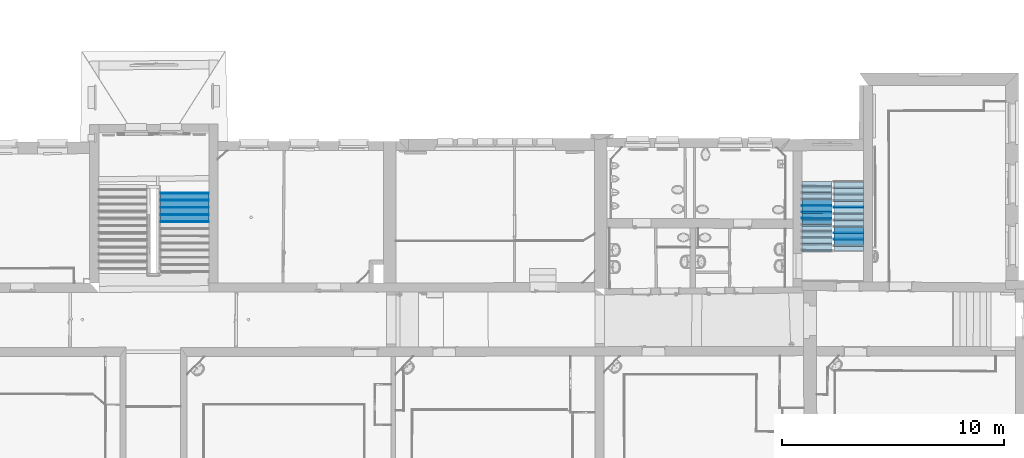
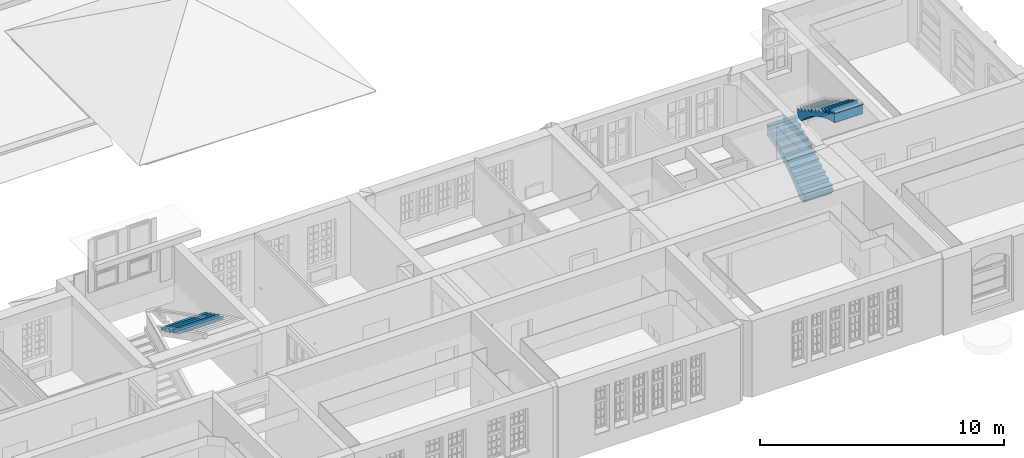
# One storey, part 114 of 158: 24 building element parts, 3 elements without a shape of their own.
"""IFC2X3 building model written with IfcOpenShell, lengths in metres."""

from ifc_helpers import new_model, entity, si_unit, converted_unit, derived_unit, money_unit, direction, frame, origin_with_axes, place, context, subcontext, project, spatial, faceted_brep, material, element, aggregate, save


model = new_model("IFC2X3")

# Units and contexts
model_context = context("Model", 3, precision=1e-05, world=origin_with_axes(), true_north=direction((0.0, 1.0)))
body_context = subcontext(model_context, "Body", "Model", "MODEL_VIEW")
ifc_project = project(units=[si_unit("LENGTHUNIT", "METRE"), si_unit("AREAUNIT", "SQUARE_METRE"), si_unit("VOLUMEUNIT", "CUBIC_METRE"), converted_unit("PLANEANGLEUNIT", "DEGREE", entity("IfcPlaneAngleMeasure", 0.0174532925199), si_unit("PLANEANGLEUNIT", "RADIAN"), dimensions=[0, 0, 0, 0, 0, 0, 0]), money_unit("EUR"), converted_unit("TIMEUNIT", "Year", entity("IfcTimeMeasure", 31556926.0), si_unit("TIMEUNIT", "SECOND"), dimensions=[0, 0, 1, 0, 0, 0, 0]), si_unit("MASSUNIT", "GRAM", prefix="KILO"), si_unit("THERMODYNAMICTEMPERATUREUNIT", "DEGREE_CELSIUS"), si_unit("LUMINOUSINTENSITYUNIT", "LUMEN"), si_unit("ENERGYUNIT", "JOULE", prefix="MEGA"), derived_unit("THERMALCONDUCTANCEUNIT", [(si_unit("POWERUNIT", "WATT"), 1), (si_unit("LENGTHUNIT", "METRE"), -1), (si_unit("THERMODYNAMICTEMPERATUREUNIT", "KELVIN"), -1)]), derived_unit("SPECIFICHEATCAPACITYUNIT", [(si_unit("ENERGYUNIT", "JOULE"), 1), (si_unit("MASSUNIT", "GRAM", prefix="KILO"), -1), (si_unit("THERMODYNAMICTEMPERATUREUNIT", "KELVIN"), -1)]), derived_unit("MASSDENSITYUNIT", [(si_unit("MASSUNIT", "GRAM", prefix="KILO"), 1), (si_unit("VOLUMEUNIT", "CUBIC_METRE"), -1)])], contexts=[model_context])

# Site, building, storey
site_placement = place(None, origin_with_axes())
site = spatial("IfcSite", under=ifc_project, at=site_placement, Name="Gelände", CompositionType="ELEMENT")
building_placement = place(site_placement, origin_with_axes())
building = spatial("IfcBuilding", under=site, at=building_placement, Name="Gebäude", CompositionType="ELEMENT")
storey_placement = place(building_placement, origin_with_axes())
storey = spatial("IfcBuildingStorey", under=building, at=storey_placement, Name="ERDGESCHOSS", CompositionType="ELEMENT", Elevation=0.0)

# Stair, building element parts
stair_1_placement = place(storey_placement, frame((21.8959454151, 21.0830287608, -0.0587690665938), z_axis=(0.0, 0.0, 1.0), x_axis=(0.999997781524, -0.00210640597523, 0.0)))
stair_1 = element("IfcStair", 1, at=stair_1_placement, inside=storey, Name="Treppe-003", ShapeType="NOTDEFINED")
ifc_material = material(Name="05_ALLGEMEIN - TRAGENDE BAUTEILE")
building_element_part_1_placement = place(stair_1_placement, origin_with_axes())
building_element_part_1 = element("IfcBuildingElementPart", 2, at=building_element_part_1_placement, material=ifc_material, Name="05_ALLGEMEIN - TRAGENDE BAUTEILE", context=body_context, shape_type="Brep", body=[
    faceted_brep([(1.3274507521, 3.17713850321, 1.20509644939), (1.3274507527, 3.17713850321, 1.58806106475), (1.32744884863, 3.17950924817, 1.58806106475), (1.32744884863, 3.17950924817, 1.74637164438), (1.32760850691, 2.98055995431, 1.74637164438), (1.32760850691, 2.98055995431, 1.58397422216), (1.32784039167, 2.69161068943, 1.58397422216), (1.32784039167, 2.69161068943, 1.42157679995), (1.32807227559, 2.40266142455, 1.42157679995), (1.32807227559, 2.40266142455, 1.25917937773), (1.32830415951, 2.11371215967, 1.25917937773), (1.32830415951, 2.11371215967, 1.09678195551), (1.32853604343, 1.82476289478, 1.09678195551), (1.32853604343, 1.82476289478, 0.934384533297), (1.32876792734, 1.5358136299, 0.934384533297), (1.32876792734, 1.5358136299, 0.771987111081), (1.32899981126, 1.24686436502, 0.771987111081), (1.32899981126, 1.24686436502, 0.609589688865), (1.32923169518, 0.957915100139, 0.609589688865), (1.32923169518, 0.957915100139, 0.447192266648), (1.3294635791, 0.668965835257, 0.447192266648), (1.3294635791, 0.668965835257, 0.284794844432), (1.32969546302, 0.380016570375, 0.284794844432), (1.32969546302, 0.380016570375, 0.122397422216), (1.32992734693, 0.0910673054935, 0.122397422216), (1.32992734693, 0.0910673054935, -0.04), (1.32999957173, 0.00106733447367, -0.04), (1.32999957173, 0.00106733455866, -0.16), (1.32987919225, 0.151067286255, -0.16), (1.32987919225, 0.151067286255, -0.34), (1.32963501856, 0.455339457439, -0.34), (1.32961310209, 0.482649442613, -0.324651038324), (1.32959910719, 0.500088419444, -0.314849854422), (1.32959910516, 0.50008841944, -0.310515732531), (1.32937930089, 0.773985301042, -0.0337832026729), (1.32914279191, 1.06869782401, 0.220667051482), (1.32889102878, 1.38241846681, 0.451274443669), (1.3286255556, 1.7132231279, 0.656624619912), (1.32834800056, 2.05908292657, 0.835458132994), (1.32806006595, 2.41787664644, 0.98667816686), (1.32776351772, 2.78740374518, 1.10935726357), (1.32746017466, 3.16539785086, 1.20274301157), (-0.00254918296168, 3.17652275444, 1.20549523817), (-0.00254918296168, 3.17652275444, 1.58806106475), (-0.00255072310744, 3.1784419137, 1.58806106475), (-0.00255072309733, 3.1784419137, 1.74637164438), (-0.00239106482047, 2.97949261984, 1.74637164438), (-0.00239106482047, 2.97949261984, 1.58397422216), (-0.00215918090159, 2.69054335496, 1.58397422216), (-0.00215918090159, 2.69054335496, 1.42157679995), (-0.00192729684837, 2.40159409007, 1.42157679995), (-0.00192729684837, 2.40159409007, 1.25917937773), (-0.00169541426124, 2.11264482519, 1.25917937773), (-0.00169541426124, 2.11264482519, 1.09678195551), (-0.00146353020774, 1.82369556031, 1.09678195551), (-0.00146353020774, 1.82369556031, 0.934384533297), (-0.00123164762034, 1.53474629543, 0.934384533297), (-0.00123164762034, 1.53474629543, 0.771987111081), (-0.000999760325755, 1.24579703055, 0.771987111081), (-0.000999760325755, 1.24579703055, 0.609589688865), (-0.000767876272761, 0.956847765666, 0.609589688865), (-0.000767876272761, 0.956847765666, 0.447192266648), (-0.000535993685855, 0.667898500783, 0.447192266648), (-0.000535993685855, 0.667898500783, 0.284794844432), (-0.000304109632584, 0.378949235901, 0.284794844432), (-0.000304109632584, 0.378949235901, 0.122397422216), (-7.22270454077e-05, 0.0899999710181, 0.122397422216), (-7.22270454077e-05, 0.0899999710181, -0.04), (0.0, 0.0, -0.04), (-9.47533607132e-09, 0.0, -0.16), (-0.000120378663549, 0.149999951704, -0.16), (-0.000120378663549, 0.149999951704, -0.34), (-0.000364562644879, 0.454272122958, -0.34), (-0.000386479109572, 0.481582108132, -0.324651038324), (-0.000399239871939, 0.497483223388, -0.315714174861), (-0.000399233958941, 0.4974832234, -0.310515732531), (-0.000619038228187, 0.771380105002, -0.0337832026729), (-0.000855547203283, 1.06609262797, 0.220667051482), (-0.00110731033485, 1.37981327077, 0.451274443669), (-0.0013727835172, 1.71061793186, 0.656624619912), (-0.00165033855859, 2.05647773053, 0.835458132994), (-0.00193827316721, 2.4152714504, 0.98667816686), (-0.0022348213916, 2.78479854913, 1.10935726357), (-0.00253816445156, 3.16279265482, 1.20274301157)], [[[0, 1, 2, 3, 4, 5, 6, 7, 8, 9, 10, 11, 12, 13, 14, 15, 16, 17, 18, 19, 20, 21, 22, 23, 24, 25, 26, 27, 28, 29, 30, 31, 32, 33, 34, 35, 36, 37, 38, 39, 40, 41]], [[1, 0, 42, 43]], [[44, 2, 1, 43]], [[2, 44, 45, 3]], [[45, 46, 4, 3]], [[4, 46, 47, 5]], [[5, 47, 48, 6]], [[6, 48, 49, 7]], [[7, 49, 50, 8]], [[8, 50, 51, 9]], [[9, 51, 52, 10]], [[10, 52, 53, 11]], [[11, 53, 54, 12]], [[12, 54, 55, 13]], [[13, 55, 56, 14]], [[14, 56, 57, 15]], [[15, 57, 58, 16]], [[16, 58, 59, 17]], [[17, 59, 60, 18]], [[18, 60, 61, 19]], [[19, 61, 62, 20]], [[20, 62, 63, 21]], [[21, 63, 64, 22]], [[22, 64, 65, 23]], [[23, 65, 66, 24]], [[24, 66, 67, 25]], [[26, 25, 67, 68]], [[68, 69, 27, 26]], [[70, 28, 27, 69]], [[71, 29, 28, 70]], [[30, 29, 71, 72]], [[72, 73, 31, 30]], [[73, 74, 32, 31]], [[75, 33, 32, 74]], [[76, 34, 33, 75]], [[77, 35, 34, 76]], [[78, 36, 35, 77]], [[79, 37, 36, 78]], [[80, 38, 37, 79]], [[81, 39, 38, 80]], [[82, 40, 39, 81]], [[83, 41, 40, 82]], [[42, 0, 41, 83]], [[43, 42, 83, 82, 81, 80, 79, 78, 77, 76, 75, 74, 73, 72, 71, 70, 69, 68, 67, 66, 65, 64, 63, 62, 61, 60, 59, 58, 57, 56, 55, 54, 53, 52, 51, 50, 49, 48, 47, 46, 45, 44]]]),
])
building_element_part_2_placement = place(stair_1_placement, origin_with_axes())
building_element_part_2 = element("IfcBuildingElementPart", 3, at=building_element_part_2_placement, material=ifc_material, Name="05_ALLGEMEIN - TRAGENDE BAUTEILE", context=body_context, shape_type="Brep", body=[
    faceted_brep([(-0.00119954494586, 1.49474630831, 0.934384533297), (1.32880002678, 1.49581364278, 0.934384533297), (1.3287679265, 1.5358136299, 0.934384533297), (-0.00123164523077, 1.53474629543, 0.934384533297), (-0.00119954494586, 1.49474630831, 0.811987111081), (1.32880002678, 1.49581364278, 0.811987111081), (1.3287679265, 1.5358136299, 0.811987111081), (-0.00123164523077, 1.53474629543, 0.811987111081)], [[[0, 1, 2, 3]], [[4, 5, 1, 0]], [[2, 1, 5, 6]], [[3, 2, 6, 7]], [[4, 0, 3, 7]], [[7, 6, 5, 4]]]),
])
building_element_part_3_placement = place(stair_1_placement, origin_with_axes())
building_element_part_3 = element("IfcBuildingElementPart", 4, at=building_element_part_3_placement, material=ifc_material, Name="05_ALLGEMEIN - TRAGENDE BAUTEILE", context=body_context, shape_type="Brep", body=[
    faceted_brep([(-0.00143142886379, 1.78369557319, 1.09678195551), (1.32856814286, 1.78476290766, 1.09678195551), (1.32853604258, 1.82476289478, 1.09678195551), (-0.00146352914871, 1.82369556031, 1.09678195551), (-0.00143142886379, 1.78369557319, 0.974384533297), (1.32856814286, 1.78476290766, 0.974384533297), (1.32853604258, 1.82476289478, 0.974384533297), (-0.00146352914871, 1.82369556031, 0.974384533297)], [[[0, 1, 2, 3]], [[4, 5, 1, 0]], [[2, 1, 5, 6]], [[3, 2, 6, 7]], [[4, 0, 3, 7]], [[7, 6, 5, 4]]]),
])
building_element_part_4_placement = place(stair_1_placement, origin_with_axes())
building_element_part_4 = element("IfcBuildingElementPart", 5, at=building_element_part_4_placement, material=ifc_material, Name="05_ALLGEMEIN - TRAGENDE BAUTEILE", context=body_context, shape_type="Brep", body=[
    faceted_brep([(-0.00166331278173, 2.07264483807, 1.25917937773), (1.32833625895, 2.07371217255, 1.25917937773), (1.32830415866, 2.11371215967, 1.25917937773), (-0.00169541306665, 2.11264482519, 1.25917937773), (-0.00166331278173, 2.07264483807, 1.13678195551), (1.32833625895, 2.07371217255, 1.13678195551), (1.32830415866, 2.11371215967, 1.13678195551), (-0.00169541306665, 2.11264482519, 1.13678195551)], [[[0, 1, 2, 3]], [[4, 5, 1, 0]], [[2, 1, 5, 6]], [[3, 2, 6, 7]], [[4, 0, 3, 7]], [[7, 6, 5, 4]]]),
])
building_element_part_5_placement = place(stair_1_placement, origin_with_axes())
building_element_part_5 = element("IfcBuildingElementPart", 6, at=building_element_part_5_placement, material=ifc_material, Name="05_ALLGEMEIN - TRAGENDE BAUTEILE", context=body_context, shape_type="Brep", body=[
    faceted_brep([(-0.000927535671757, 1.15579705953, 0.811987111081), (-0.000927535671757, 1.15579705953, 0.771987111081), (1.32907203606, 1.156864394, 0.771987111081), (1.32907203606, 1.156864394, 0.811987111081), (-0.00123164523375, 1.53474629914, 0.811987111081), (-0.00123164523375, 1.53474629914, 0.771987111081), (1.32876792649, 1.5358136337, 0.771987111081), (1.32876792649, 1.5358136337, 0.811987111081)], [[[0, 1, 2, 3]], [[4, 5, 1, 0]], [[2, 1, 5, 6]], [[3, 2, 6, 7]], [[4, 0, 3, 7]], [[7, 6, 5, 4]]]),
])
building_element_part_6_placement = place(stair_1_placement, origin_with_axes())
building_element_part_6 = element("IfcBuildingElementPart", 7, at=building_element_part_6_placement, material=ifc_material, Name="05_ALLGEMEIN - TRAGENDE BAUTEILE", context=body_context, shape_type="Brep", body=[
    faceted_brep([(-0.0011594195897, 1.44474632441, 0.974384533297), (-0.0011594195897, 1.44474632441, 0.934384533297), (1.32884015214, 1.44581365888, 0.934384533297), (1.32884015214, 1.44581365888, 0.974384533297), (-0.00146352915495, 1.82369556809, 0.974384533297), (-0.00146352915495, 1.82369556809, 0.934384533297), (1.32853604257, 1.82476290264, 0.934384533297), (1.32853604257, 1.82476290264, 0.974384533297)], [[[0, 1, 2, 3]], [[4, 5, 1, 0]], [[2, 1, 5, 6]], [[3, 2, 6, 7]], [[4, 0, 3, 7]], [[7, 6, 5, 4]]]),
])
building_element_part_7_placement = place(stair_1_placement, origin_with_axes())
building_element_part_7 = element("IfcBuildingElementPart", 8, at=building_element_part_7_placement, material=ifc_material, Name="05_ALLGEMEIN - TRAGENDE BAUTEILE", context=body_context, shape_type="Brep", body=[
    faceted_brep([(-0.00139130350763, 1.73369558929, 1.13678195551), (-0.00139130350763, 1.73369558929, 1.09678195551), (1.32860826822, 1.73476292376, 1.09678195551), (1.32860826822, 1.73476292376, 1.13678195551), (-0.00169541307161, 2.11264483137, 1.13678195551), (-0.00169541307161, 2.11264483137, 1.09678195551), (1.32830415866, 2.11371216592, 1.09678195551), (1.32830415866, 2.11371216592, 1.13678195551)], [[[0, 1, 2, 3]], [[4, 5, 1, 0]], [[2, 1, 5, 6]], [[3, 2, 6, 7]], [[4, 0, 3, 7]], [[7, 6, 5, 4]]]),
])
building_element_part_8_placement = place(stair_1_placement, origin_with_axes())
building_element_part_8 = element("IfcBuildingElementPart", 9, at=building_element_part_8_placement, material=ifc_material, Name="05_ALLGEMEIN - TRAGENDE BAUTEILE", context=body_context, shape_type="Brep", body=[
    faceted_brep([(-0.00162318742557, 2.02264485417, 1.29917937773), (-0.00162318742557, 2.02264485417, 1.25917937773), (1.3283763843, 2.02371218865, 1.25917937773), (1.3283763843, 2.02371218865, 1.29917937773), (-0.00192729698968, 2.40159409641, 1.29917937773), (-0.00192729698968, 2.40159409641, 1.25917937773), (1.32807227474, 2.40266143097, 1.25917937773), (1.32807227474, 2.40266143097, 1.29917937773)], [[[0, 1, 2, 3]], [[4, 5, 1, 0]], [[2, 1, 5, 6]], [[3, 2, 6, 7]], [[4, 0, 3, 7]], [[7, 6, 5, 4]]]),
])
aggregate(stair_1, [building_element_part_1, building_element_part_2, building_element_part_3, building_element_part_4, building_element_part_5, building_element_part_6, building_element_part_7, building_element_part_8])

stair_2_placement = place(storey_placement, frame((24.6725396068, 24.3329310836, 1.86929199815), z_axis=(0.0, 0.0, 1.0), x_axis=(-0.999999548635, 0.000950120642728, 0.0)))
stair_2 = element("IfcStair", 10, at=stair_2_placement, inside=storey, Name="Treppe-003", ShapeType="NOTDEFINED")
building_element_part_9_placement = place(stair_2_placement, origin_with_axes())
building_element_part_9 = element("IfcBuildingElementPart", 11, at=building_element_part_9_placement, material=ifc_material, Name="05_ALLGEMEIN - TRAGENDE BAUTEILE", context=body_context, shape_type="Brep", body=[
    faceted_brep([(0.0521772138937, 3.19442861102, 1.75582567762), (-0.00256319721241, 3.1939839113, 1.75582567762), (-0.00240277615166, 2.99408604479, 1.75582567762), (1.32759679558, 2.99515337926, 1.75582567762), (1.32749522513, 3.12171974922, 1.75582567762), (1.32727854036, 3.1217198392, 1.75582567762), (1.32667956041, 3.19545140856, 1.75582567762), (-0.00256319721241, 3.1939839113, 1.73070800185), (0.0521772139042, 3.19442861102, 1.73070800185), (-0.0025055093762, 3.12210134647, 1.73070800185), (-0.0025055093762, 3.12210134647, 1.23070800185), (-0.00250896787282, 3.12641095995, 1.23070800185), (-0.00250896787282, 3.12641095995, 1.22823933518), (-0.00240338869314, 2.99484932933, 1.20246288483), (-0.00229857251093, 2.86423846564, 1.17223557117), (-0.00219464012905, 2.73472890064, 1.13759223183), (-0.00209171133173, 2.6064698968, 1.09857279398), (-0.00198990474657, 2.47960927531, 1.05522222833), (-0.00188933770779, 2.3542932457, 1.00759049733), (-0.00179012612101, 2.23066623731, 0.955732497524), (-0.00169238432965, 2.10887073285, 0.899707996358), (-0.00150192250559, 1.87153730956, 0.787585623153), (-0.00131632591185, 1.6402664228, 0.66343910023), (-0.00113608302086, 1.41566675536, 0.527595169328), (-0.000961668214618, 1.19832943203, 0.380411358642), (-0.000793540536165, 0.988826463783, 0.222275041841), (-0.000632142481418, 0.787709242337, 0.0536024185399), (-0.000477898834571, 0.595507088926, -0.125162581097), (-0.000331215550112, 0.412725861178, -0.313549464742), (-0.000331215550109, 0.412725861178, -0.317502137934), (-0.000310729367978, 0.387198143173, -0.331853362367), (-0.000299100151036, 0.372707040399, -0.34), (-0.000120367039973, 0.149999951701, -0.34), (-0.000120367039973, 0.149999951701, -0.16), (-0.000120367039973, 0.149999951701, 0.0207080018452), (-7.22972278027e-05, 0.090099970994, 0.0207080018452), (-7.23053086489e-05, 0.0900999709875, 0.123256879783), (-0.000305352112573, 0.380498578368, 0.123256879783), (-0.000305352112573, 0.380498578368, 0.286513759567), (-0.000538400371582, 0.670897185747, 0.286513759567), (-0.000538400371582, 0.670897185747, 0.44977063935), (-0.000771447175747, 0.961295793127, 0.44977063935), (-0.000771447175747, 0.961295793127, 0.613027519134), (-0.00100449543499, 1.25169440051, 0.613027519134), (-0.00100449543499, 1.25169440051, 0.776284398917), (-0.00123754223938, 1.54209300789, 0.776284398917), (-0.00123754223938, 1.54209300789, 0.9395412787), (-0.00147058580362, 1.83249161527, 0.9395412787), (-0.00147058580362, 1.83249161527, 1.10279815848), (-0.00170363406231, 2.12289022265, 1.10279815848), (-0.00170363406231, 2.12289022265, 1.26605503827), (-0.00193668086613, 2.41328883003, 1.26605503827), (-0.00193668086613, 2.41328883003, 1.42931191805), (-0.00216972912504, 2.70368743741, 1.42931191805), (-0.00216972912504, 2.70368743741, 1.59256879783), (-0.00240277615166, 2.99408604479, 1.59256879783), (1.32759679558, 2.99515337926, 1.59256879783), (1.32749522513, 3.12171974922, 1.73070800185), (1.32782984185, 2.70475477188, 1.59256879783), (1.32782984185, 2.70475477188, 1.42931191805), (1.32806288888, 2.4143561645, 1.42931191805), (1.32806288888, 2.4143561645, 1.26605503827), (1.32829593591, 2.12395755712, 1.26605503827), (1.32829593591, 2.12395755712, 1.10279815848), (1.32852898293, 1.83355894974, 1.10279815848), (1.32852898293, 1.83355894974, 0.9395412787), (1.32876202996, 1.54316034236, 0.9395412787), (1.32876202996, 1.54316034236, 0.776284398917), (1.32899507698, 1.25276173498, 0.776284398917), (1.32899507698, 1.25276173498, 0.613027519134), (1.32922812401, 0.9623631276, 0.613027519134), (1.32922812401, 0.9623631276, 0.44977063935), (1.32946117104, 0.67196452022, 0.44977063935), (1.32946117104, 0.67196452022, 0.286513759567), (1.32969421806, 0.38156591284, 0.286513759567), (1.32969421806, 0.38156591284, 0.123256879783), (1.32992726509, 0.09116730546, 0.123256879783), (1.32992726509, 0.09116730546, -0.04), (1.32994055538, 0.07460652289, -0.04), (1.32994055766, 0.0746065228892, -0.16), (1.32987921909, 0.151067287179, -0.16), (1.32987919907, 0.151067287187, -0.34), (1.32970047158, 0.373774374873, -0.34), (1.32968884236, 0.388265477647, -0.331853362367), (1.32966835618, 0.413793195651, -0.317502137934), (1.32966835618, 0.413793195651, -0.313549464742), (1.32952167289, 0.5965744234, -0.125162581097), (1.32936742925, 0.788776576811, 0.0536024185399), (1.32920603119, 0.989893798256, 0.222275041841), (1.32903790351, 1.1993967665, 0.380411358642), (1.32886348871, 1.41673408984, 0.527595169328), (1.32868324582, 1.64133375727, 0.66343910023), (1.32849764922, 1.87260464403, 0.787585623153), (1.3283071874, 2.10993806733, 0.899707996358), (1.32820944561, 2.23173357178, 0.955732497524), (1.32811023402, 2.35536058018, 1.00759049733), (1.32800966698, 2.48067660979, 1.05522222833), (1.3279078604, 2.60753723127, 1.09857279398), (1.3278049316, 2.73579623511, 1.13759223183), (1.32770099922, 2.86530580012, 1.17223557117), (1.32759618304, 2.9959166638, 1.20246288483), (1.32749060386, 3.12747829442, 1.22823933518), (1.32749060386, 3.12747829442, 1.23070800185), (1.32749522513, 3.12171974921, 1.23070800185), (1.32727854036, 3.1217198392, 1.73070800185), (1.32727854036, 3.1217198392, 1.23070800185), (1.32667956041, 3.19545140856, 1.73070800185), (1.32987921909, 0.151067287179, 0.0207080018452), (1.32985802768, 0.0911672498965, 0.0207080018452), (1.32985802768, 0.0911672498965, -0.04), (1.32985216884, 0.0746065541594, -0.04), (1.32985216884, 0.0746065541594, -0.16)], [[[0, 1, 2, 3, 4, 5, 6]], [[7, 1, 0, 8]], [[1, 7, 9, 10, 11, 12, 13, 14, 15, 16, 17, 18, 19, 20, 21, 22, 23, 24, 25, 26, 27, 28, 29, 30, 31, 32, 33, 34, 35, 36, 37, 38, 39, 40, 41, 42, 43, 44, 45, 46, 47, 48, 49, 50, 51, 52, 53, 54, 55, 2]], [[56, 3, 2, 55]], [[57, 4, 3, 56, 58, 59, 60, 61, 62, 63, 64, 65, 66, 67, 68, 69, 70, 71, 72, 73, 74, 75, 76, 77, 78, 79, 80, 81, 82, 83, 84, 85, 86, 87, 88, 89, 90, 91, 92, 93, 94, 95, 96, 97, 98, 99, 100, 101, 102, 103]], [[104, 5, 4, 57, 103, 105]], [[106, 6, 5, 104]], [[8, 0, 6, 106]], [[7, 8, 106, 104, 9]], [[104, 105, 10, 9]], [[103, 102, 11, 10, 105]], [[101, 12, 11, 102]], [[12, 101, 100, 13]], [[13, 100, 99, 14]], [[14, 99, 98, 15]], [[15, 98, 97, 16]], [[16, 97, 96, 17]], [[17, 96, 95, 18]], [[18, 95, 94, 19]], [[19, 94, 93, 20]], [[20, 93, 92, 21]], [[21, 92, 91, 22]], [[22, 91, 90, 23]], [[23, 90, 89, 24]], [[24, 89, 88, 25]], [[25, 88, 87, 26]], [[26, 87, 86, 27]], [[27, 86, 85, 28]], [[28, 85, 84, 29]], [[84, 83, 30, 29]], [[82, 31, 30, 83]], [[31, 82, 81, 32]], [[81, 80, 33, 32]], [[107, 34, 33, 80]], [[107, 108, 35, 34]], [[35, 108, 109, 77, 76, 36]], [[76, 75, 37, 36]], [[75, 74, 38, 37]], [[74, 73, 39, 38]], [[73, 72, 40, 39]], [[72, 71, 41, 40]], [[71, 70, 42, 41]], [[70, 69, 43, 42]], [[69, 68, 44, 43]], [[68, 67, 45, 44]], [[67, 66, 46, 45]], [[66, 65, 47, 46]], [[65, 64, 48, 47]], [[64, 63, 49, 48]], [[63, 62, 50, 49]], [[62, 61, 51, 50]], [[61, 60, 52, 51]], [[60, 59, 53, 52]], [[59, 58, 54, 53]], [[58, 56, 55, 54]], [[109, 110, 78, 77]], [[79, 78, 110, 111]], [[79, 111, 80]], [[111, 110, 109, 108, 107, 80]]]),
])
building_element_part_10_placement = place(stair_2_placement, origin_with_axes())
building_element_part_10 = element("IfcBuildingElementPart", 12, at=building_element_part_10_placement, material=ifc_material, Name="05_ALLGEMEIN - TRAGENDE BAUTEILE", context=body_context, shape_type="Brep", body=[
    faceted_brep([(-0.000972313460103, 1.21159441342, 0.776284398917), (1.32902725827, 1.21266174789, 0.776284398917), (1.32899515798, 1.25266173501, 0.776284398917), (-0.00100441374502, 1.25159440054, 0.776284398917), (-0.000972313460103, 1.21159441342, 0.653027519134), (1.32902725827, 1.21266174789, 0.653027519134), (1.32899515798, 1.25266173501, 0.653027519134), (-0.00100441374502, 1.25159440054, 0.653027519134)], [[[0, 1, 2, 3]], [[4, 5, 1, 0]], [[2, 1, 5, 6]], [[3, 2, 6, 7]], [[4, 0, 3, 7]], [[7, 6, 5, 4]]]),
])
building_element_part_11_placement = place(stair_2_placement, origin_with_axes())
building_element_part_11 = element("IfcBuildingElementPart", 13, at=building_element_part_11_placement, material=ifc_material, Name="05_ALLGEMEIN - TRAGENDE BAUTEILE", context=body_context, shape_type="Brep", body=[
    faceted_brep([(1.32809507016, 2.37425617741, 1.42931191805), (1.32806296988, 2.41425616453, 1.42931191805), (-0.00193660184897, 2.41318883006, 1.42931191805), (-0.00190450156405, 2.37318884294, 1.42931191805), (1.32809507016, 2.37425617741, 1.30605503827), (1.32806296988, 2.41425616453, 1.30605503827), (-0.00193660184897, 2.41318883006, 1.30605503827), (-0.00190450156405, 2.37318884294, 1.30605503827)], [[[0, 1, 2, 3]], [[0, 4, 5, 1]], [[1, 5, 6, 2]], [[3, 2, 6, 7]], [[4, 0, 3, 7]], [[5, 4, 7, 6]]]),
])
building_element_part_12_placement = place(stair_2_placement, origin_with_axes())
building_element_part_12 = element("IfcBuildingElementPart", 14, at=building_element_part_12_placement, material=ifc_material, Name="05_ALLGEMEIN - TRAGENDE BAUTEILE", context=body_context, shape_type="Brep", body=[
    faceted_brep([(1.32786202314, 2.66465478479, 1.59256879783), (1.32782992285, 2.70465477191, 1.59256879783), (-0.00216964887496, 2.70358743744, 1.59256879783), (-0.00213754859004, 2.66358745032, 1.59256879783), (1.32786202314, 2.66465478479, 1.46931191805), (1.32782992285, 2.70465477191, 1.46931191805), (-0.00216964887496, 2.70358743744, 1.46931191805), (-0.00213754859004, 2.66358745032, 1.46931191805)], [[[0, 1, 2, 3]], [[0, 4, 5, 1]], [[1, 5, 6, 2]], [[3, 2, 6, 7]], [[4, 0, 3, 7]], [[5, 4, 7, 6]]]),
])
building_element_part_13_placement = place(stair_2_placement, origin_with_axes())
building_element_part_13 = element("IfcBuildingElementPart", 15, at=building_element_part_13_placement, material=ifc_material, Name="05_ALLGEMEIN - TRAGENDE BAUTEILE", context=body_context, shape_type="Brep", body=[
    faceted_brep([(-0.0016313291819, 2.03279025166, 1.26605503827), (1.32836824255, 2.03385758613, 1.26605503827), (1.32836824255, 2.03385758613, 1.30605503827), (-0.0016313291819, 2.03279025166, 1.30605503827), (-0.00193660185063, 2.41318883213, 1.26605503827), (1.32806296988, 2.41425616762, 1.26605503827), (1.32806296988, 2.41425616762, 1.30605503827), (-0.00193660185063, 2.41318883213, 1.30605503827)], [[[0, 1, 2, 3]], [[0, 4, 5, 1]], [[1, 5, 6, 2]], [[3, 2, 6, 7]], [[4, 0, 3, 7]], [[5, 4, 7, 6]]]),
])
building_element_part_14_placement = place(stair_2_placement, origin_with_axes())
building_element_part_14 = element("IfcBuildingElementPart", 16, at=building_element_part_14_placement, material=ifc_material, Name="05_ALLGEMEIN - TRAGENDE BAUTEILE", context=body_context, shape_type="Brep", body=[
    faceted_brep([(-0.0018643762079, 2.32318885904, 1.42931191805), (1.32813519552, 2.32425619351, 1.42931191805), (1.32813519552, 2.32425619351, 1.46931191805), (-0.0018643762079, 2.32318885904, 1.46931191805), (-0.0021696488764, 2.70358743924, 1.42931191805), (1.32782992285, 2.70465477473, 1.42931191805), (1.32782992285, 2.70465477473, 1.46931191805), (-0.0021696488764, 2.70358743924, 1.46931191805)], [[[0, 1, 2, 3]], [[0, 4, 5, 1]], [[1, 5, 6, 2]], [[3, 2, 6, 7]], [[4, 0, 3, 7]], [[5, 4, 7, 6]]]),
])
building_element_part_15_placement = place(stair_2_placement, origin_with_axes())
building_element_part_15 = element("IfcBuildingElementPart", 17, at=building_element_part_15_placement, material=ifc_material, Name="05_ALLGEMEIN - TRAGENDE BAUTEILE", context=body_context, shape_type="Brep", body=[
    faceted_brep([(-0.00209742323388, 2.61358746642, 1.59256879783), (1.32790214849, 2.61465480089, 1.59256879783), (1.32790214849, 2.61465480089, 1.63256879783), (-0.00209742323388, 2.61358746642, 1.63256879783), (-0.00240269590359, 2.99398604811, 1.59256879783), (1.32759687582, 2.9950533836, 1.59256879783), (1.32759687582, 2.9950533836, 1.63256879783), (-0.00240269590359, 2.99398604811, 1.63256879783)], [[[0, 1, 2, 3]], [[0, 4, 5, 1]], [[1, 5, 6, 2]], [[3, 2, 6, 7]], [[4, 0, 3, 7]], [[5, 4, 7, 6]]]),
])
aggregate(stair_2, [building_element_part_9, building_element_part_10, building_element_part_11, building_element_part_12, building_element_part_13, building_element_part_14, building_element_part_15])

stair_3_placement = place(storey_placement, frame((-4.87334172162, 23.8045853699, 1.79631283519), z_axis=(0.0, 0.0, 1.0), x_axis=(-0.999999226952, 0.00124342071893, 0.0)))
stair_3 = element("IfcStair", 18, at=stair_3_placement, inside=storey, Name="Treppe-003", ShapeType="NOTDEFINED")
building_element_part_16_placement = place(stair_3_placement, origin_with_axes())
building_element_part_16 = element("IfcBuildingElementPart", 19, at=building_element_part_16_placement, material=ifc_material, Name="05_ALLGEMEIN - TRAGENDE BAUTEILE", context=body_context, shape_type="Brep", body=[
    faceted_brep([(-7.22203257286e-05, 0.0899933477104, 0.0136871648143), (-4.01248049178e-05, 0.0499999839, 0.0136871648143), (-4.01253561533e-05, 0.0499999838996, 0.123379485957), (-7.2225641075e-05, 0.0899999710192, 0.123379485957), (2.17995917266, 0.0517494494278, 0.0136871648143), (2.17992707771, 0.091742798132, 0.0136871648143), (2.17995917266, 0.0517494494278, 0.123379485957), (2.17992707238, 0.0917494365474, 0.123379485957)], [[[0, 1, 2, 3]], [[4, 1, 0, 5]], [[1, 4, 6, 2]], [[3, 2, 6, 7]], [[5, 0, 3, 7]], [[4, 5, 7, 6]]]),
])
building_element_part_17_placement = place(stair_3_placement, origin_with_axes())
building_element_part_17 = element("IfcBuildingElementPart", 20, at=building_element_part_17_placement, material=ifc_material, Name="05_ALLGEMEIN - TRAGENDE BAUTEILE", context=body_context, shape_type="Brep", body=[
    faceted_brep([(2.17929915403, 0.373852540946, 0.286758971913), (2.17899028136, 0.413852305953, 0.286758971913), (-0.000330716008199, 0.412103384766, 0.286758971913), (-0.000298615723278, 0.372103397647, 0.286758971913), (2.17899028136, 0.413852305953, 0.163379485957), (2.17929915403, 0.373852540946, 0.163379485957), (-0.000330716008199, 0.412103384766, 0.163379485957), (-0.000298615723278, 0.372103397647, 0.163379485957)], [[[0, 1, 2, 3]], [[4, 1, 0, 5]], [[1, 4, 6, 2]], [[7, 3, 2, 6]], [[5, 0, 3, 7]], [[4, 5, 7, 6]]]),
])
building_element_part_18_placement = place(stair_3_placement, origin_with_axes())
building_element_part_18 = element("IfcBuildingElementPart", 21, at=building_element_part_18_placement, material=ifc_material, Name="05_ALLGEMEIN - TRAGENDE BAUTEILE", context=body_context, shape_type="Brep", body=[
    faceted_brep([(2.17681192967, 0.695954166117, 0.45013845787), (2.176503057, 0.735953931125, 0.45013845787), (-0.000589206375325, 0.734206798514, 0.45013845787), (-0.000557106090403, 0.694206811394, 0.45013845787), (2.176503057, 0.735953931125, 0.326758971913), (2.17681192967, 0.695954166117, 0.326758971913), (-0.000589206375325, 0.734206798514, 0.326758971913), (-0.000557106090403, 0.694206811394, 0.326758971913)], [[[0, 1, 2, 3]], [[4, 1, 0, 5]], [[1, 4, 6, 2]], [[7, 3, 2, 6]], [[5, 0, 3, 7]], [[4, 5, 7, 6]]]),
])
building_element_part_19_placement = place(stair_3_placement, origin_with_axes())
building_element_part_19 = element("IfcBuildingElementPart", 22, at=building_element_part_19_placement, material=ifc_material, Name="05_ALLGEMEIN - TRAGENDE BAUTEILE", context=body_context, shape_type="Brep", body=[
    faceted_brep([(2.17432470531, 1.01805579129, 0.613517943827), (2.17401583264, 1.0580555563, 0.613517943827), (-0.00084769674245, 1.05631021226, 0.613517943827), (-0.000815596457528, 1.01631022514, 0.613517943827), (2.17401583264, 1.0580555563, 0.49013845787), (2.17432470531, 1.01805579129, 0.49013845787), (-0.00084769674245, 1.05631021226, 0.49013845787), (-0.000815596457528, 1.01631022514, 0.49013845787)], [[[0, 1, 2, 3]], [[4, 1, 0, 5]], [[1, 4, 6, 2]], [[7, 3, 2, 6]], [[5, 0, 3, 7]], [[4, 5, 7, 6]]]),
])
building_element_part_20_placement = place(stair_3_placement, origin_with_axes())
building_element_part_20 = element("IfcBuildingElementPart", 23, at=building_element_part_20_placement, material=ifc_material, Name="05_ALLGEMEIN - TRAGENDE BAUTEILE", context=body_context, shape_type="Brep", body=[
    faceted_brep([(2.17183748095, 1.34015741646, 0.776897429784), (2.17152860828, 1.38015718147, 0.776897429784), (-0.00110618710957, 1.37841362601, 0.776897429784), (-0.00107408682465, 1.33841363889, 0.776897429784), (2.17152860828, 1.38015718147, 0.653517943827), (2.17183748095, 1.34015741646, 0.653517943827), (-0.00110618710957, 1.37841362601, 0.653517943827), (-0.00107408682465, 1.33841363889, 0.653517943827)], [[[0, 1, 2, 3]], [[4, 1, 0, 5]], [[1, 4, 6, 2]], [[7, 3, 2, 6]], [[5, 0, 3, 7]], [[4, 5, 7, 6]]]),
])
building_element_part_21_placement = place(stair_3_placement, origin_with_axes())
building_element_part_21 = element("IfcBuildingElementPart", 24, at=building_element_part_21_placement, material=ifc_material, Name="05_ALLGEMEIN - TRAGENDE BAUTEILE", context=body_context, shape_type="Brep", body=[
    faceted_brep([(2.17974725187, 0.31582277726, 0.163379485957), (2.17899028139, 0.413852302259, 0.163379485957), (-0.000330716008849, 0.412103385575, 0.163379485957), (0.0, 0.0, 0.163379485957), (2.17999929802, 0.00174946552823, 0.163379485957), (2.17899028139, 0.413852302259, 0.123379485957), (2.17974725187, 0.31582277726, 0.123379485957), (-0.000330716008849, 0.412103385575, 0.123379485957), (0.0, 0.0, 0.123379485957), (2.17999929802, 0.00174946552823, 0.123379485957)], [[[0, 1, 2, 3, 4]], [[5, 1, 0, 6]], [[1, 5, 7, 2]], [[2, 7, 8, 3]], [[3, 8, 9, 4]], [[6, 0, 4, 9]], [[5, 6, 9, 8, 7]]]),
])
building_element_part_22_placement = place(stair_3_placement, origin_with_axes())
building_element_part_22 = element("IfcBuildingElementPart", 25, at=building_element_part_22_placement, material=ifc_material, Name="05_ALLGEMEIN - TRAGENDE BAUTEILE", context=body_context, shape_type="Brep", body=[
    faceted_brep([(2.17968524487, 0.323852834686, 0.326758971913), (2.176503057, 0.735953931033, 0.326758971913), (-0.000589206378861, 0.73420680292, 0.326758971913), (-0.000258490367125, 0.322103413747, 0.326758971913), (2.176503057, 0.735953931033, 0.286758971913), (2.17968524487, 0.323852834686, 0.286758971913), (-0.000589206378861, 0.73420680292, 0.286758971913), (-0.000258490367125, 0.322103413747, 0.286758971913)], [[[0, 1, 2, 3]], [[4, 1, 0, 5]], [[1, 4, 6, 2]], [[2, 6, 7, 3]], [[5, 0, 3, 7]], [[4, 5, 7, 6]]]),
])
building_element_part_23_placement = place(stair_3_placement, origin_with_axes())
building_element_part_23 = element("IfcBuildingElementPart", 26, at=building_element_part_23_placement, material=ifc_material, Name="05_ALLGEMEIN - TRAGENDE BAUTEILE", context=body_context, shape_type="Brep", body=[
    faceted_brep([(2.17719802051, 0.645954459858, 0.49013845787), (2.17401583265, 1.05805555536, 0.49013845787), (-0.000847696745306, 1.05631021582, 0.49013845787), (-0.00051698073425, 0.644206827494, 0.49013845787), (2.17401583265, 1.05805555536, 0.45013845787), (2.17719802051, 0.645954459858, 0.45013845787), (-0.000847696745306, 1.05631021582, 0.45013845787), (-0.00051698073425, 0.644206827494, 0.45013845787)], [[[0, 1, 2, 3]], [[4, 1, 0, 5]], [[1, 4, 6, 2]], [[2, 6, 7, 3]], [[5, 0, 3, 7]], [[4, 5, 7, 6]]]),
])
building_element_part_24_placement = place(stair_3_placement, origin_with_axes())
building_element_part_24 = element("IfcBuildingElementPart", 27, at=building_element_part_24_placement, material=ifc_material, Name="05_ALLGEMEIN - TRAGENDE BAUTEILE", context=body_context, shape_type="Brep", body=[
    faceted_brep([(2.17471079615, 0.968056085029, 0.653517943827), (2.17152860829, 1.38015717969, 0.653517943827), (-0.00110618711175, 1.37841362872, 0.653517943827), (-0.000775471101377, 0.966310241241, 0.653517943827), (2.17152860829, 1.38015717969, 0.613517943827), (2.17471079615, 0.968056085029, 0.613517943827), (-0.00110618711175, 1.37841362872, 0.613517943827), (-0.000775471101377, 0.966310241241, 0.613517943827)], [[[0, 1, 2, 3]], [[4, 1, 0, 5]], [[1, 4, 6, 2]], [[2, 6, 7, 3]], [[5, 0, 3, 7]], [[4, 5, 7, 6]]]),
])
aggregate(stair_3, [building_element_part_16, building_element_part_17, building_element_part_18, building_element_part_19, building_element_part_20, building_element_part_21, building_element_part_22, building_element_part_23, building_element_part_24])

save(model, "model.ifc")
